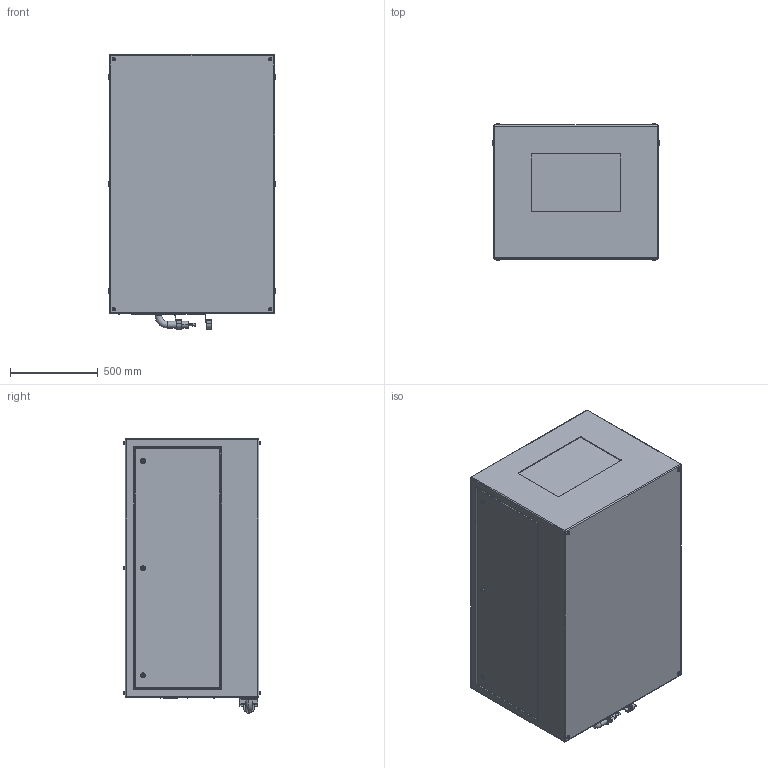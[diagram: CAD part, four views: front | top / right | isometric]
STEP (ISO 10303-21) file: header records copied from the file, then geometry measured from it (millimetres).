
FILE_DESCRIPTION (( 'STEP AP214' ), '1' );
FILE_NAME ('Oasis 59.322.L R02.STEP', '2022-09-12T23:43:25', ( '' ), ( '' ), 'SwSTEP 2.0', 'SolidWorks 2020', '' );
FILE_SCHEMA (( 'AUTOMOTIVE_DESIGN' ));
Length unit declared in the file: inch
Products named in the file (1): Oasis 59.322.L R02
Bounding box: 952.5 x 779.27 x 1562.1 mm (x, y, z)
Volume: 1053944405.4 mm3; surface area: 6976009.4 mm2
Topology: 3 solids, 9 shells, 510 faces, 1165 edges, 738 vertices
Faces by surface type: plane 279, cylinder 177, torus 46, bspline 8
Entity records: 19431 total; most frequent: CARTESIAN_POINT 2926, DIRECTION 2539, ORIENTED_EDGE 2314, EDGE_CURVE 1157, AXIS2_PLACEMENT_3D 911, VERTEX_POINT 738, VECTOR 717, LINE 717
